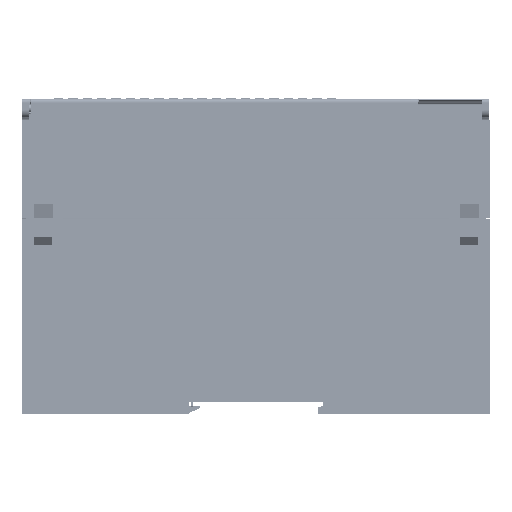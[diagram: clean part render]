
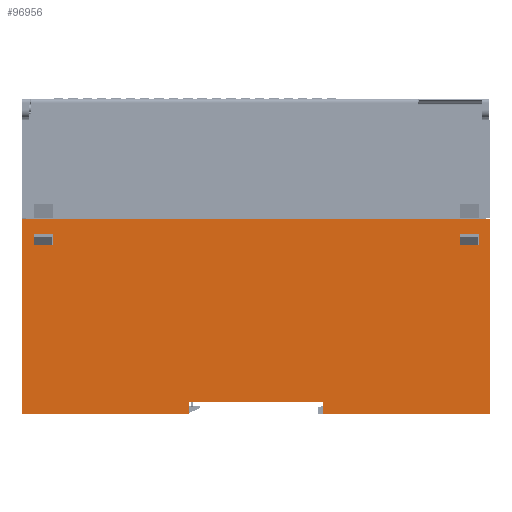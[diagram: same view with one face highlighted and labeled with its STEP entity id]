
A CAD part, left-side view. The second image highlights one B-rep face of the part: STEP entity #96956.
In plain terms, the highlighted planar face has unit normal (-1, 0, 0).
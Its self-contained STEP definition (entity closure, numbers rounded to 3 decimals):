
#4245 = DIRECTION ( 'NONE',  ( 0., 0., -1. ) ) ;
#9510 = DIRECTION ( 'NONE',  ( 0., 0., -1. ) ) ;
#12754 = ORIENTED_EDGE ( 'NONE', *, *, #642384, .T. ) ;
#17973 = CARTESIAN_POINT ( 'NONE',  ( -80.271, 31.895, -18.367 ) ) ;
#25073 = VERTEX_POINT ( 'NONE', #98476 ) ;
#47570 = CARTESIAN_POINT ( 'NONE',  ( -80.271, 31.895, 70.284 ) ) ;
#54089 = VECTOR ( 'NONE', #597594, 1000. ) ;
#56530 = CARTESIAN_POINT ( 'NONE',  ( -80.271, 68.195, 23.284 ) ) ;
#58440 = VERTEX_POINT ( 'NONE', #56530 ) ;
#60134 = VECTOR ( 'NONE', #711995, 1000. ) ;
#62654 = FACE_BOUND ( 'NONE', #766807, .T. ) ;
#86091 = EDGE_CURVE ( 'NONE', #421771, #386403, #255558, .T. ) ;
#90360 = CARTESIAN_POINT ( 'NONE',  ( -80.271, 11.235, -21.367 ) ) ;
#96956 = ADVANCED_FACE ( 'NONE', ( #217270, #62654, #408921 ), #489174, .T. ) ;
#98086 = CARTESIAN_POINT ( 'NONE',  ( -80.271, 73.195, 70.284 ) ) ;
#98476 = CARTESIAN_POINT ( 'NONE',  ( -80.271, 73.195, 26.284 ) ) ;
#103630 = CARTESIAN_POINT ( 'NONE',  ( -80.271, -39.805, 23.284 ) ) ;
#105604 = VERTEX_POINT ( 'NONE', #567911 ) ;
#109169 = DIRECTION ( 'NONE',  ( 0., 0., 1. ) ) ;
#125238 = CARTESIAN_POINT ( 'NONE',  ( -80.271, -39.805, 26.284 ) ) ;
#138227 = EDGE_CURVE ( 'NONE', #386403, #753844, #337271, .T. ) ;
#139754 = VERTEX_POINT ( 'NONE', #390547 ) ;
#147880 = VERTEX_POINT ( 'NONE', #719302 ) ;
#151480 = CARTESIAN_POINT ( 'NONE',  ( -80.271, 11.235, -18.367 ) ) ;
#151714 = LINE ( 'NONE', #564638, #708257 ) ;
#153224 = CARTESIAN_POINT ( 'NONE',  ( -80.271, 11.235, 30.284 ) ) ;
#160426 = ORIENTED_EDGE ( 'NONE', *, *, #731871, .T. ) ;
#160764 = VECTOR ( 'NONE', #232329, 1000. ) ;
#162790 = ORIENTED_EDGE ( 'NONE', *, *, #138227, .T. ) ;
#163350 = ORIENTED_EDGE ( 'NONE', *, *, #480373, .T. ) ;
#163603 = ORIENTED_EDGE ( 'NONE', *, *, #276066, .T. ) ;
#182850 = LINE ( 'NONE', #331768, #730113 ) ;
#192004 = CARTESIAN_POINT ( 'NONE',  ( -80.271, 11.235, 23.284 ) ) ;
#202365 = LINE ( 'NONE', #47570, #346231 ) ;
#217270 = FACE_BOUND ( 'NONE', #725674, .T. ) ;
#232329 = DIRECTION ( 'NONE',  ( 0., 1., 0. ) ) ;
#250356 = VERTEX_POINT ( 'NONE', #445600 ) ;
#253500 = CARTESIAN_POINT ( 'NONE',  ( -80.271, 76.195, 70.284 ) ) ;
#255558 = LINE ( 'NONE', #415060, #54089 ) ;
#260273 = LINE ( 'NONE', #153224, #653721 ) ;
#260282 = VECTOR ( 'NONE', #730986, 1000. ) ;
#265448 = EDGE_CURVE ( 'NONE', #753844, #250356, #182850, .T. ) ;
#276066 = EDGE_CURVE ( 'NONE', #25073, #283434, #592216, .T. ) ;
#283434 = VERTEX_POINT ( 'NONE', #329445 ) ;
#283831 = ORIENTED_EDGE ( 'NONE', *, *, #495753, .T. ) ;
#285369 = LINE ( 'NONE', #782319, #160764 ) ;
#286387 = ORIENTED_EDGE ( 'NONE', *, *, #717453, .T. ) ;
#292471 = ORIENTED_EDGE ( 'NONE', *, *, #375856, .T. ) ;
#293497 = CARTESIAN_POINT ( 'NONE',  ( -80.271, 11.235, 70.284 ) ) ;
#306857 = VECTOR ( 'NONE', #315491, 1000. ) ;
#309540 = CARTESIAN_POINT ( 'NONE',  ( -80.271, -3.605, -18.367 ) ) ;
#315491 = DIRECTION ( 'NONE',  ( 0., -1., 0. ) ) ;
#319106 = CARTESIAN_POINT ( 'NONE',  ( -80.271, 31.895, -21.367 ) ) ;
#329445 = CARTESIAN_POINT ( 'NONE',  ( -80.271, 68.195, 26.284 ) ) ;
#331768 = CARTESIAN_POINT ( 'NONE',  ( -80.271, -44.805, 70.284 ) ) ;
#334249 = DIRECTION ( 'NONE',  ( 0., 0., 1. ) ) ;
#337271 = LINE ( 'NONE', #612904, #260282 ) ;
#346231 = VECTOR ( 'NONE', #109169, 1000. ) ;
#350248 = DIRECTION ( 'NONE',  ( 0., 0., 1. ) ) ;
#355899 = VERTEX_POINT ( 'NONE', #319106 ) ;
#371014 = VECTOR ( 'NONE', #350248, 1000. ) ;
#375856 = EDGE_CURVE ( 'NONE', #465372, #139754, #151714, .T. ) ;
#379434 = ORIENTED_EDGE ( 'NONE', *, *, #416023, .T. ) ;
#379770 = CARTESIAN_POINT ( 'NONE',  ( -80.271, 11.235, -21.367 ) ) ;
#386403 = VERTEX_POINT ( 'NONE', #125238 ) ;
#390547 = CARTESIAN_POINT ( 'NONE',  ( -80.271, -3.605, -21.367 ) ) ;
#405082 = ORIENTED_EDGE ( 'NONE', *, *, #781080, .T. ) ;
#408921 = FACE_OUTER_BOUND ( 'NONE', #628293, .T. ) ;
#410607 = EDGE_CURVE ( 'NONE', #529505, #105604, #260273, .T. ) ;
#415060 = CARTESIAN_POINT ( 'NONE',  ( -80.271, -39.805, 70.284 ) ) ;
#416023 = EDGE_CURVE ( 'NONE', #147880, #355899, #720950, .T. ) ;
#416763 = VECTOR ( 'NONE', #4245, 1000. ) ;
#421581 = ORIENTED_EDGE ( 'NONE', *, *, #663625, .T. ) ;
#421771 = VERTEX_POINT ( 'NONE', #103630 ) ;
#428909 = VECTOR ( 'NONE', #523281, 1000. ) ;
#445600 = CARTESIAN_POINT ( 'NONE',  ( -80.271, -44.805, 23.284 ) ) ;
#447224 = ORIENTED_EDGE ( 'NONE', *, *, #499791, .T. ) ;
#453260 = CARTESIAN_POINT ( 'NONE',  ( -80.271, -44.805, 26.284 ) ) ;
#460382 = DIRECTION ( 'NONE',  ( 0., -1., 0. ) ) ;
#461725 = CARTESIAN_POINT ( 'NONE',  ( -80.271, 11.235, 26.284 ) ) ;
#465372 = VERTEX_POINT ( 'NONE', #309540 ) ;
#469283 = VERTEX_POINT ( 'NONE', #511213 ) ;
#478674 = DIRECTION ( 'NONE',  ( -1., 0., 0. ) ) ;
#480373 = EDGE_CURVE ( 'NONE', #488709, #465372, #549501, .T. ) ;
#484229 = CARTESIAN_POINT ( 'NONE',  ( -80.271, -47.805, 70.284 ) ) ;
#486614 = ORIENTED_EDGE ( 'NONE', *, *, #86091, .T. ) ;
#488709 = VERTEX_POINT ( 'NONE', #17973 ) ;
#489174 = PLANE ( 'NONE',  #712318 ) ;
#490631 = VECTOR ( 'NONE', #460382, 1000. ) ;
#494109 = ORIENTED_EDGE ( 'NONE', *, *, #265448, .T. ) ;
#495753 = EDGE_CURVE ( 'NONE', #469283, #25073, #762434, .T. ) ;
#499791 = EDGE_CURVE ( 'NONE', #283434, #58440, #743039, .T. ) ;
#511213 = CARTESIAN_POINT ( 'NONE',  ( -80.271, 73.195, 23.284 ) ) ;
#523281 = DIRECTION ( 'NONE',  ( 0., -1., 0. ) ) ;
#529505 = VERTEX_POINT ( 'NONE', #558526 ) ;
#545573 = DIRECTION ( 'NONE',  ( 0., 0., 1. ) ) ;
#549501 = LINE ( 'NONE', #151480, #60134 ) ;
#558526 = CARTESIAN_POINT ( 'NONE',  ( -80.271, -47.805, 30.284 ) ) ;
#560627 = VECTOR ( 'NONE', #334249, 1000. ) ;
#564638 = CARTESIAN_POINT ( 'NONE',  ( -80.271, -3.605, 70.284 ) ) ;
#567911 = CARTESIAN_POINT ( 'NONE',  ( -80.271, 76.195, 30.284 ) ) ;
#579733 = VECTOR ( 'NONE', #622638, 1000. ) ;
#579971 = LINE ( 'NONE', #253500, #416763 ) ;
#584755 = LINE ( 'NONE', #192004, #728814 ) ;
#584757 = LINE ( 'NONE', #379770, #306857 ) ;
#592216 = LINE ( 'NONE', #461725, #428909 ) ;
#594406 = ORIENTED_EDGE ( 'NONE', *, *, #410607, .T. ) ;
#597594 = DIRECTION ( 'NONE',  ( 0., 0., 1. ) ) ;
#612904 = CARTESIAN_POINT ( 'NONE',  ( -80.271, 11.235, 26.284 ) ) ;
#622638 = DIRECTION ( 'NONE',  ( 0., 0., -1. ) ) ;
#623827 = DIRECTION ( 'NONE',  ( 0., 1., 0. ) ) ;
#628293 = EDGE_LOOP ( 'NONE', ( #379434, #405082, #163350, #292471, #421581, #286387, #594406, #12754 ) ) ;
#635013 = DIRECTION ( 'NONE',  ( 0., 0., -1. ) ) ;
#642384 = EDGE_CURVE ( 'NONE', #105604, #147880, #579971, .T. ) ;
#653721 = VECTOR ( 'NONE', #764827, 1000. ) ;
#663625 = EDGE_CURVE ( 'NONE', #139754, #698011, #584757, .T. ) ;
#685552 = ORIENTED_EDGE ( 'NONE', *, *, #709025, .T. ) ;
#686477 = CARTESIAN_POINT ( 'NONE',  ( -80.271, -47.805, -21.367 ) ) ;
#689624 = CARTESIAN_POINT ( 'NONE',  ( -80.271, 68.195, 70.284 ) ) ;
#697578 = LINE ( 'NONE', #484229, #371014 ) ;
#698011 = VERTEX_POINT ( 'NONE', #686477 ) ;
#708257 = VECTOR ( 'NONE', #9510, 1000. ) ;
#709025 = EDGE_CURVE ( 'NONE', #58440, #469283, #285369, .T. ) ;
#711995 = DIRECTION ( 'NONE',  ( 0., -1., 0. ) ) ;
#712318 = AXIS2_PLACEMENT_3D ( 'NONE', #293497, #478674, #545573 ) ;
#717453 = EDGE_CURVE ( 'NONE', #698011, #529505, #697578, .T. ) ;
#719302 = CARTESIAN_POINT ( 'NONE',  ( -80.271, 76.195, -21.367 ) ) ;
#720950 = LINE ( 'NONE', #90360, #490631 ) ;
#725674 = EDGE_LOOP ( 'NONE', ( #162790, #494109, #160426, #486614 ) ) ;
#728814 = VECTOR ( 'NONE', #623827, 1000. ) ;
#730113 = VECTOR ( 'NONE', #635013, 1000. ) ;
#730986 = DIRECTION ( 'NONE',  ( 0., -1., 0. ) ) ;
#731871 = EDGE_CURVE ( 'NONE', #250356, #421771, #584755, .T. ) ;
#743039 = LINE ( 'NONE', #689624, #579733 ) ;
#753844 = VERTEX_POINT ( 'NONE', #453260 ) ;
#762434 = LINE ( 'NONE', #98086, #560627 ) ;
#764827 = DIRECTION ( 'NONE',  ( 0., 1., 0. ) ) ;
#766807 = EDGE_LOOP ( 'NONE', ( #163603, #447224, #685552, #283831 ) ) ;
#781080 = EDGE_CURVE ( 'NONE', #355899, #488709, #202365, .T. ) ;
#782319 = CARTESIAN_POINT ( 'NONE',  ( -80.271, 11.235, 23.284 ) ) ;
